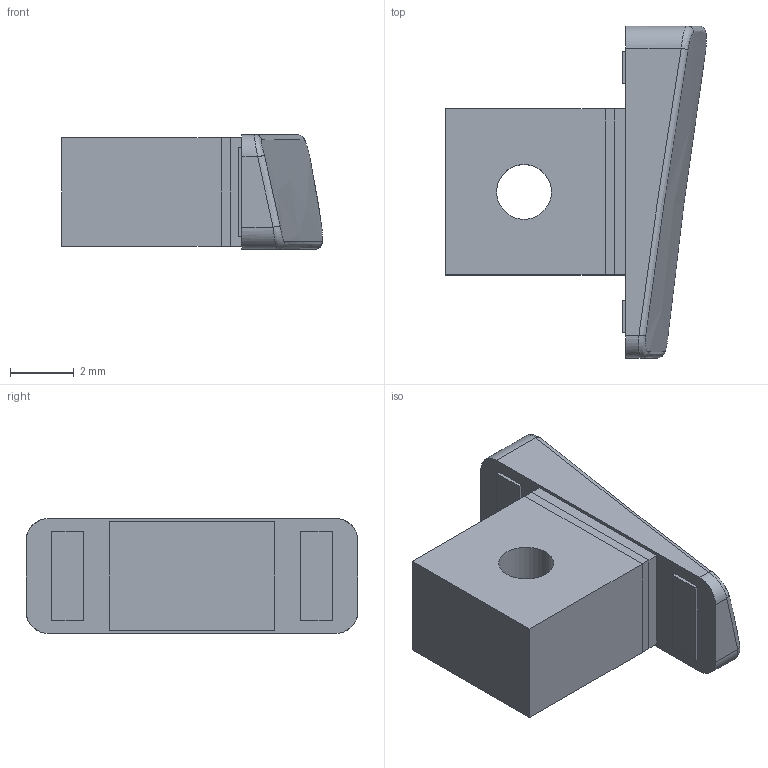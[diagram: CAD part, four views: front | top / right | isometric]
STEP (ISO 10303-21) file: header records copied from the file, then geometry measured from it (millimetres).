
FILE_DESCRIPTION(('Open CASCADE Model'),'2;1');
FILE_NAME('Open CASCADE Shape Model','2026-10-17T16:39:49',('Author'),( 'Open CASCADE'),'Open CASCADE STEP processor 7.9','Open CASCADE 7.9' ,'Unknown');
FILE_SCHEMA(('AUTOMOTIVE_DESIGN { 1 0 10303 214 1 1 1 1 }'));
Length unit declared in the file: millimetre
Products named in the file (1): Open CASCADE STEP translator 7.9 29
Bounding box: 8.18 x 10.4 x 3.6 mm (x, y, z)
Volume: 152.4 mm3; surface area: 227.8 mm2
Topology: 1 solids, 1 shells, 42 faces, 95 edges, 58 vertices
Faces by surface type: plane 28, bspline 9, cylinder 5
Full cylindrical faces by diameter (mm): 1.72 x1
Entity records: 9849 total; most frequent: CARTESIAN_POINT 8090, DIRECTION 269, ORIENTED_EDGE 190, PCURVE 190, DEFINITIONAL_REPRESENTATION 190, LINE 185, VECTOR 185, EDGE_CURVE 95
